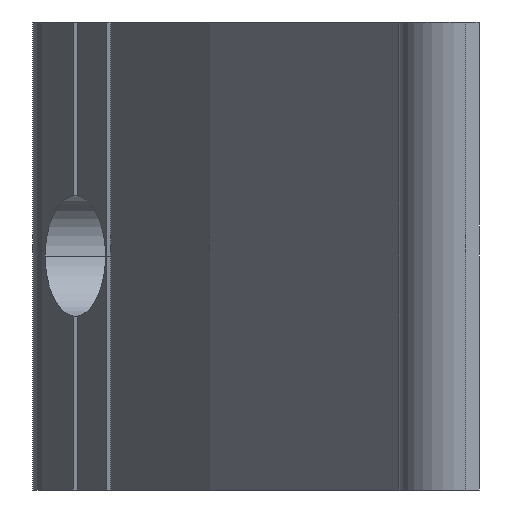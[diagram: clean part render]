
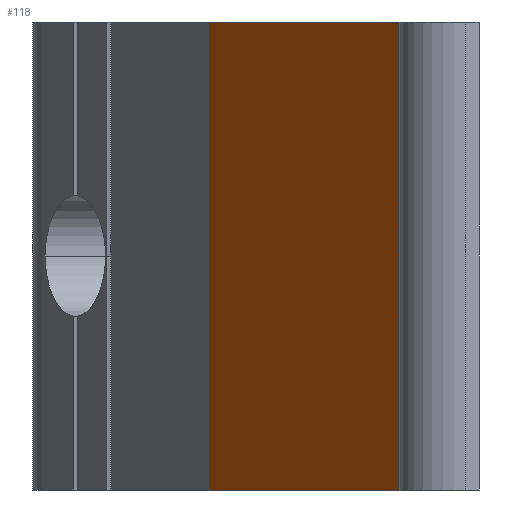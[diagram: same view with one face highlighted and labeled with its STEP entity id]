
A CAD part, left-side view. The second image highlights one B-rep face of the part: STEP entity #118.
In plain terms, the highlighted planar face has unit normal (-0.259, 0.966, 0).
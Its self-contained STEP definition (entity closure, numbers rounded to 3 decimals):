
#17 = VERTEX_POINT ( 'NONE', #1291 ) ;
#110 = EDGE_CURVE ( 'NONE', #400, #17, #1539, .T. ) ;
#118 = ADVANCED_FACE ( 'NONE', ( #776 ), #1071, .F. ) ;
#161 = DIRECTION ( 'NONE',  ( 0., 0., -1. ) ) ;
#217 = AXIS2_PLACEMENT_3D ( 'NONE', #1010, #991, #949 ) ;
#228 = ORIENTED_EDGE ( 'NONE', *, *, #1293, .F. ) ;
#237 = VECTOR ( 'NONE', #161, 1000. ) ;
#240 = EDGE_LOOP ( 'NONE', ( #616, #228, #1703, #306 ) ) ;
#247 = CARTESIAN_POINT ( 'NONE',  ( 22.981, 20.196, -17.5 ) ) ;
#306 = ORIENTED_EDGE ( 'NONE', *, *, #426, .T. ) ;
#377 = DIRECTION ( 'NONE',  ( -0.966, -0.259, 0. ) ) ;
#386 = EDGE_CURVE ( 'NONE', #1567, #1049, #1166, .T. ) ;
#400 = VERTEX_POINT ( 'NONE', #432 ) ;
#426 = EDGE_CURVE ( 'NONE', #400, #1567, #1133, .T. ) ;
#432 = CARTESIAN_POINT ( 'NONE',  ( 22.981, 20.196, 17.5 ) ) ;
#602 = DIRECTION ( 'NONE',  ( -0.966, -0.259, 0. ) ) ;
#616 = ORIENTED_EDGE ( 'NONE', *, *, #386, .T. ) ;
#681 = LINE ( 'NONE', #1177, #237 ) ;
#749 = VECTOR ( 'NONE', #602, 1000. ) ;
#761 = CARTESIAN_POINT ( 'NONE',  ( -3.51, 13.098, -17.5 ) ) ;
#776 = FACE_OUTER_BOUND ( 'NONE', #240, .T. ) ;
#949 = DIRECTION ( 'NONE',  ( 0.966, 0.259, 0. ) ) ;
#991 = DIRECTION ( 'NONE',  ( 0.259, -0.966, 0. ) ) ;
#1010 = CARTESIAN_POINT ( 'NONE',  ( -3.51, 13.098, 17.5 ) ) ;
#1049 = VERTEX_POINT ( 'NONE', #1257 ) ;
#1071 = PLANE ( 'NONE',  #217 ) ;
#1088 = VECTOR ( 'NONE', #1460, 1000. ) ;
#1133 = LINE ( 'NONE', #1613, #1088 ) ;
#1152 = VECTOR ( 'NONE', #377, 1000. ) ;
#1166 = LINE ( 'NONE', #761, #749 ) ;
#1177 = CARTESIAN_POINT ( 'NONE',  ( -30., 6., 17.5 ) ) ;
#1257 = CARTESIAN_POINT ( 'NONE',  ( -30., 6., -17.5 ) ) ;
#1291 = CARTESIAN_POINT ( 'NONE',  ( -30., 6., 17.5 ) ) ;
#1293 = EDGE_CURVE ( 'NONE', #17, #1049, #681, .T. ) ;
#1430 = CARTESIAN_POINT ( 'NONE',  ( -3.51, 13.098, 17.5 ) ) ;
#1460 = DIRECTION ( 'NONE',  ( 0., 0., -1. ) ) ;
#1539 = LINE ( 'NONE', #1430, #1152 ) ;
#1567 = VERTEX_POINT ( 'NONE', #247 ) ;
#1613 = CARTESIAN_POINT ( 'NONE',  ( 22.981, 20.196, 17.5 ) ) ;
#1703 = ORIENTED_EDGE ( 'NONE', *, *, #110, .F. ) ;
